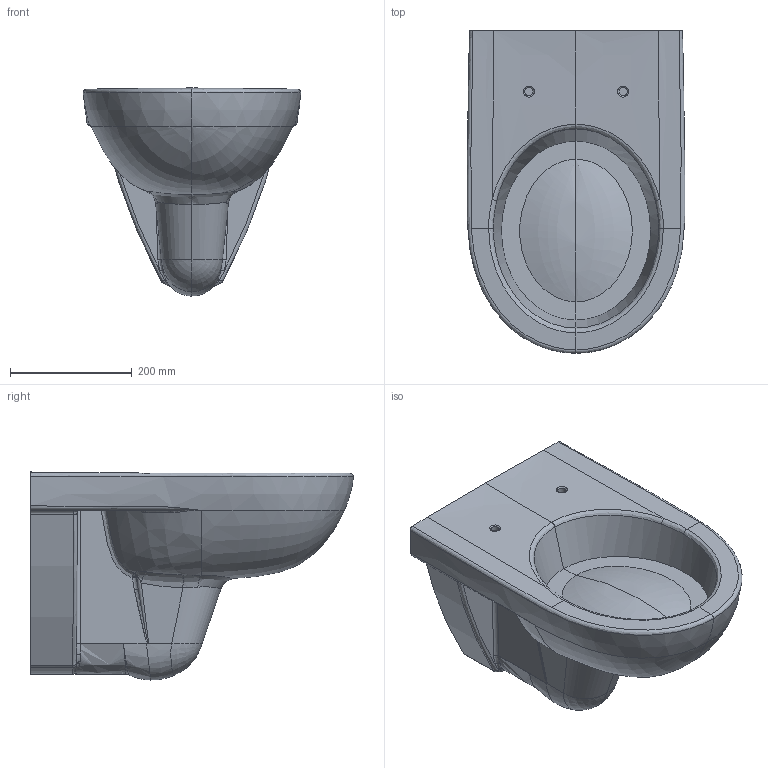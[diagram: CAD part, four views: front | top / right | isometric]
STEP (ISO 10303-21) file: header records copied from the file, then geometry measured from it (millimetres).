
FILE_DESCRIPTION(/* description */ (''),/* implementation_level */ '2;1');
FILE_NAME(/* name */ 'C:\Planerdaten\Export PLA\500.260.01.1\stp\500260.stp',/* time_stamp */ '2020-05-27T08:24:00+02:00',/* author */ ('JANAN'),/* organization */ (''),/* preprocessor_version */ 'ST-DEVELOPER v16.13',/* originating_system */ 'Autodesk Inventor 2018',/* authorisation */ '');
FILE_SCHEMA (('AUTOMOTIVE_DESIGN { 1 0 10303 214 3 1 1 }'));
Length unit declared in the file: millimetre
Products named in the file (1): WWC-T Ge+Snv T53
Bounding box: 357.39 x 530.04 x 341.8 mm (x, y, z)
Volume: 22342685 mm3; surface area: 711434.3 mm2
Topology: 1 solids, 1 shells, 140 faces, 352 edges, 203 vertices
Faces by surface type: bspline 108, plane 18, cylinder 14
Full cylindrical faces by diameter (mm): 20 x2, 50 x1, 90 x1
Entity records: 21733 total; most frequent: CARTESIAN_POINT 19052, ORIENTED_EDGE 658, EDGE_CURVE 329, DIRECTION 299, VERTEX_POINT 199, B_SPLINE_CURVE_WITH_KNOTS 180, EDGE_LOOP 148, STYLED_ITEM 141
